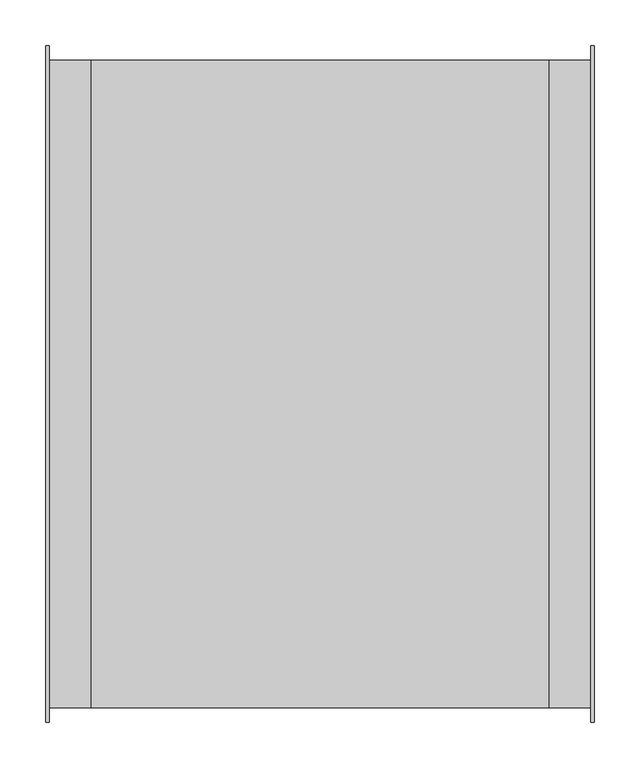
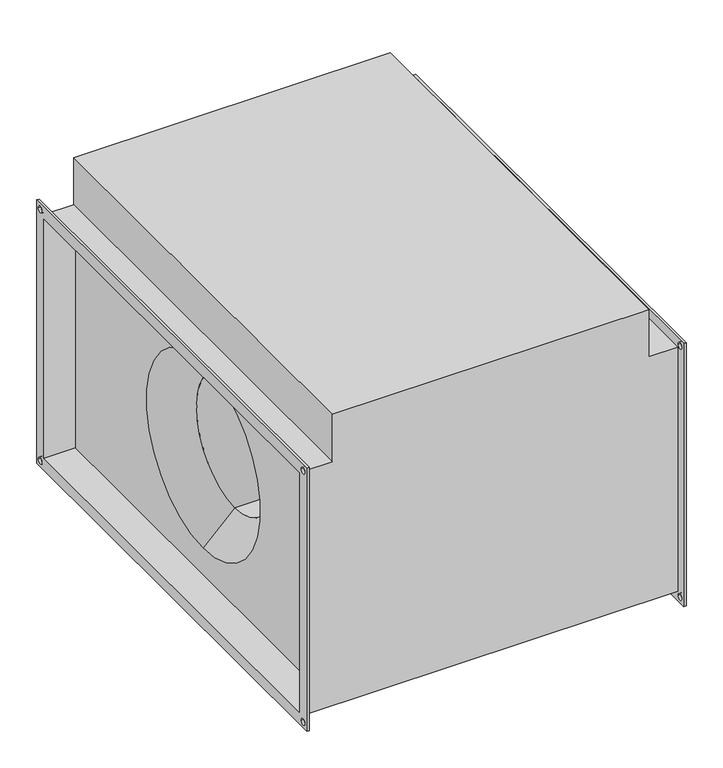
"""IFC4 building model written with IfcOpenShell, lengths in millimetres: proxy geometry."""

from ifc_helpers import new_model, si_unit, frame, origin, place, context, project, spatial, polyline, circle_curve, source, transform, mapped, element, save
from ifc_brep_helpers import plane_surface, revolved_surface, advanced_brep


def mechanical_equipment_ec7d1ba4(model_context):
    return source(origin(), model_context, "Body", "AdvancedBrep", [
        advanced_brep(
        [(-296.0, -354.0, 204.0), (-250.0, -354.0, 204.0), (-250.0, 354.0, 204.0), (-296.0, 354.0, 204.0), (250.0, 354.0, 283.0), (250.0, -354.0, 283.0), (250.0, -354.0, 204.0), (250.0, 354.0, 204.0), (250.0, 350.0, -200.0), (250.0, 350.0, 200.0), (250.0, -350.0, 200.0), (250.0, -350.0, -200.0), (250.0, 0.0, 155.0), (250.0, 0.0, -155.0), (-250.0, 350.0, 200.0), (-250.0, 350.0, -200.0), (-250.0, -350.0, -200.0), (-250.0, -350.0, 200.0), (-250.0, 0.0, -155.0), (-250.0, 0.0, 155.0), (-250.0, -354.0, 283.0), (-250.0, 354.0, 283.0), (-296.0, -354.0, -204.0), (296.0, -354.0, -204.0), (296.0, -354.0, 204.0), (-296.0, 354.0, -204.0), (296.0, 354.0, -204.0), (296.0, 354.0, 204.0), (200.0, 0.0, -105.0), (200.0, 0.0, 105.0), (-200.0, 0.0, 105.0), (-200.0, 0.0, -105.0), (-300.0, -370.0, 220.0), (-300.0, 370.0, 220.0), (-300.0, 370.0, -220.0), (-300.0, -370.0, -220.0), (-300.0, -350.0, 200.0), (-300.0, -350.0, -200.0), (-300.0, 350.0, -200.0), (-300.0, 350.0, 200.0), (-300.0, 355.0, 210.0), (-300.0, 365.0, 210.0), (-300.0, -365.0, 210.0), (-300.0, -355.0, 210.0), (-300.0, -365.0, -210.0), (-300.0, -355.0, -210.0), (-300.0, 355.0, -210.0), (-300.0, 365.0, -210.0), (-296.0, -370.0, 220.0), (-296.0, -370.0, -220.0), (-296.0, 370.0, -220.0), (-296.0, 370.0, 220.0), (-296.0, 365.0, 210.0), (-296.0, 355.0, 210.0), (-296.0, -355.0, 210.0), (-296.0, -365.0, 210.0), (-296.0, -355.0, -210.0), (-296.0, -365.0, -210.0), (-296.0, 365.0, -210.0), (-296.0, 355.0, -210.0), (296.0, 370.0, 220.0), (296.0, 370.0, -220.0), (296.0, -370.0, -220.0), (296.0, -370.0, 220.0), (296.0, 355.0, 210.0), (296.0, 365.0, 210.0), (296.0, -365.0, 210.0), (296.0, -355.0, 210.0), (296.0, -365.0, -210.0), (296.0, -355.0, -210.0), (296.0, 355.0, -210.0), (296.0, 365.0, -210.0), (300.0, 370.0, 220.0), (300.0, -370.0, 220.0), (300.0, -370.0, -220.0), (300.0, 370.0, -220.0), (300.0, 350.0, 200.0), (300.0, 350.0, -200.0), (300.0, -350.0, -200.0), (300.0, -350.0, 200.0), (300.0, 365.0, 210.0), (300.0, 355.0, 210.0), (300.0, -355.0, 210.0), (300.0, -365.0, 210.0), (300.0, -355.0, -210.0), (300.0, -365.0, -210.0), (300.0, 365.0, -210.0), (300.0, 355.0, -210.0)],
        [
            (0, 1),
            (1, 2),
            (2, 3),
            (3, 0),
            (4, 5),
            (5, 6),
            (6, 7),
            (7, 4),
            (8, 9),
            (9, 10),
            (10, 11),
            (11, 8),
            (12, 13, circle_curve(frame((250.0, 0.0, 0.0), z_axis=(-1.0, 0.0, 0.0), x_axis=(0.0, 0.0, 1.0)), 155.0)),
            (13, 12, circle_curve(frame((250.0, 0.0, 0.0), z_axis=(-1.0, 0.0, 0.0), x_axis=(0.0, 0.0, 1.0)), 155.0)),
            (14, 15),
            (15, 16),
            (16, 17),
            (17, 14),
            (18, 19, circle_curve(frame((-250.0, 0.0, 0.0), z_axis=(1.0, 0.0, 0.0), x_axis=(0.0, 0.0, 1.0)), 155.0)),
            (19, 18, circle_curve(frame((-250.0, 0.0, 0.0), z_axis=(1.0, 0.0, 0.0), x_axis=(0.0, 0.0, 1.0)), 155.0)),
            (20, 21),
            (21, 2),
            (1, 20),
            (5, 20),
            (0, 22),
            (22, 23),
            (23, 24),
            (24, 6),
            (22, 25),
            (25, 26),
            (26, 23),
            (21, 4),
            (7, 27),
            (27, 26),
            (25, 3),
            (24, 27),
            (28, 13),
            (12, 29),
            (29, 28, circle_curve(frame((200.0, 0.0, 0.0), z_axis=(-1.0, 0.0, 0.0), x_axis=(0.0, 0.0, 1.0)), 105.0)),
            (28, 29, circle_curve(frame((200.0, 0.0, 0.0), z_axis=(-1.0, 0.0, 0.0), x_axis=(0.0, 0.0, 1.0)), 105.0)),
            (29, 30),
            (30, 31, circle_curve(frame((-200.0, 0.0, 0.0), z_axis=(-1.0, 0.0, 0.0), x_axis=(0.0, 0.0, 1.0)), 105.0)),
            (31, 28),
            (31, 30, circle_curve(frame((-200.0, 0.0, 0.0), z_axis=(-1.0, 0.0, 0.0), x_axis=(0.0, 0.0, 1.0)), 105.0)),
            (30, 19),
            (18, 31),
            (32, 33),
            (33, 34),
            (34, 35),
            (35, 32),
            (36, 37),
            (37, 38),
            (38, 39),
            (39, 36),
            (40, 41, circle_curve(frame((-300.0, 360.0, 210.0), z_axis=(1.0, 0.0, 0.0), x_axis=(0.0, 1.0, 0.0)), 5.0)),
            (41, 40, circle_curve(frame((-300.0, 360.0, 210.0), z_axis=(1.0, 0.0, 0.0), x_axis=(0.0, 1.0, 0.0)), 5.0)),
            (42, 43, circle_curve(frame((-300.0, -360.0, 210.0), z_axis=(1.0, 0.0, 0.0), x_axis=(0.0, 1.0, 0.0)), 5.0)),
            (43, 42, circle_curve(frame((-300.0, -360.0, 210.0), z_axis=(1.0, 0.0, 0.0), x_axis=(0.0, 1.0, 0.0)), 5.0)),
            (44, 45, circle_curve(frame((-300.0, -360.0, -210.0), z_axis=(1.0, 0.0, 0.0), x_axis=(0.0, 1.0, 0.0)), 5.0)),
            (45, 44, circle_curve(frame((-300.0, -360.0, -210.0), z_axis=(1.0, 0.0, 0.0), x_axis=(0.0, 1.0, 0.0)), 5.0)),
            (46, 47, circle_curve(frame((-300.0, 360.0, -210.0), z_axis=(1.0, 0.0, 0.0), x_axis=(0.0, 1.0, 0.0)), 5.0)),
            (47, 46, circle_curve(frame((-300.0, 360.0, -210.0), z_axis=(1.0, 0.0, 0.0), x_axis=(0.0, 1.0, 0.0)), 5.0)),
            (48, 49),
            (49, 50),
            (50, 51),
            (51, 48),
            (52, 53, circle_curve(frame((-296.0, 360.0, 210.0), z_axis=(-1.0, 0.0, 0.0), x_axis=(0.0, 1.0, 0.0)), 5.0)),
            (53, 52, circle_curve(frame((-296.0, 360.0, 210.0), z_axis=(-1.0, 0.0, 0.0), x_axis=(0.0, 1.0, 0.0)), 5.0)),
            (54, 55, circle_curve(frame((-296.0, -360.0, 210.0), z_axis=(-1.0, 0.0, 0.0), x_axis=(0.0, 1.0, 0.0)), 5.0)),
            (55, 54, circle_curve(frame((-296.0, -360.0, 210.0), z_axis=(-1.0, 0.0, 0.0), x_axis=(0.0, 1.0, 0.0)), 5.0)),
            (56, 57, circle_curve(frame((-296.0, -360.0, -210.0), z_axis=(-1.0, 0.0, 0.0), x_axis=(0.0, 1.0, 0.0)), 5.0)),
            (57, 56, circle_curve(frame((-296.0, -360.0, -210.0), z_axis=(-1.0, 0.0, 0.0), x_axis=(0.0, 1.0, 0.0)), 5.0)),
            (58, 59, circle_curve(frame((-296.0, 360.0, -210.0), z_axis=(-1.0, 0.0, 0.0), x_axis=(0.0, 1.0, 0.0)), 5.0)),
            (59, 58, circle_curve(frame((-296.0, 360.0, -210.0), z_axis=(-1.0, 0.0, 0.0), x_axis=(0.0, 1.0, 0.0)), 5.0)),
            (35, 49),
            (48, 32),
            (34, 50),
            (33, 51),
            (60, 61),
            (61, 62),
            (62, 63),
            (63, 60),
            (64, 65, circle_curve(frame((296.0, 360.0, 210.0), z_axis=(1.0, 0.0, 0.0), x_axis=(0.0, 1.0, 0.0)), 5.0)),
            (65, 64, circle_curve(frame((296.0, 360.0, 210.0), z_axis=(1.0, 0.0, 0.0), x_axis=(0.0, 1.0, 0.0)), 5.0)),
            (66, 67, circle_curve(frame((296.0, -360.0, 210.0), z_axis=(1.0, 0.0, 0.0), x_axis=(0.0, 1.0, 0.0)), 5.0)),
            (67, 66, circle_curve(frame((296.0, -360.0, 210.0), z_axis=(1.0, 0.0, 0.0), x_axis=(0.0, 1.0, 0.0)), 5.0)),
            (68, 69, circle_curve(frame((296.0, -360.0, -210.0), z_axis=(1.0, 0.0, 0.0), x_axis=(0.0, 1.0, 0.0)), 5.0)),
            (69, 68, circle_curve(frame((296.0, -360.0, -210.0), z_axis=(1.0, 0.0, 0.0), x_axis=(0.0, 1.0, 0.0)), 5.0)),
            (70, 71, circle_curve(frame((296.0, 360.0, -210.0), z_axis=(1.0, 0.0, 0.0), x_axis=(0.0, 1.0, 0.0)), 5.0)),
            (71, 70, circle_curve(frame((296.0, 360.0, -210.0), z_axis=(1.0, 0.0, 0.0), x_axis=(0.0, 1.0, 0.0)), 5.0)),
            (72, 73),
            (73, 74),
            (74, 75),
            (75, 72),
            (76, 77),
            (77, 78),
            (78, 79),
            (79, 76),
            (80, 81, circle_curve(frame((300.0, 360.0, 210.0), z_axis=(-1.0, 0.0, 0.0), x_axis=(0.0, 1.0, 0.0)), 5.0)),
            (81, 80, circle_curve(frame((300.0, 360.0, 210.0), z_axis=(-1.0, 0.0, 0.0), x_axis=(0.0, 1.0, 0.0)), 5.0)),
            (82, 83, circle_curve(frame((300.0, -360.0, 210.0), z_axis=(-1.0, 0.0, 0.0), x_axis=(0.0, 1.0, 0.0)), 5.0)),
            (83, 82, circle_curve(frame((300.0, -360.0, 210.0), z_axis=(-1.0, 0.0, 0.0), x_axis=(0.0, 1.0, 0.0)), 5.0)),
            (84, 85, circle_curve(frame((300.0, -360.0, -210.0), z_axis=(-1.0, 0.0, 0.0), x_axis=(0.0, 1.0, 0.0)), 5.0)),
            (85, 84, circle_curve(frame((300.0, -360.0, -210.0), z_axis=(-1.0, 0.0, 0.0), x_axis=(0.0, 1.0, 0.0)), 5.0)),
            (86, 87, circle_curve(frame((300.0, 360.0, -210.0), z_axis=(-1.0, 0.0, 0.0), x_axis=(0.0, 1.0, 0.0)), 5.0)),
            (87, 86, circle_curve(frame((300.0, 360.0, -210.0), z_axis=(-1.0, 0.0, 0.0), x_axis=(0.0, 1.0, 0.0)), 5.0)),
            (63, 73),
            (72, 60),
            (62, 74),
            (61, 75),
            (39, 14),
            (17, 36),
            (38, 15),
            (37, 16),
            (76, 9),
            (8, 77),
            (11, 78),
            (10, 79),
            (40, 53),
            (52, 41),
            (64, 81),
            (80, 65),
            (42, 55),
            (54, 43),
            (66, 83),
            (82, 67),
            (44, 57),
            (56, 45),
            (68, 85),
            (84, 69),
            (46, 59),
            (58, 47),
            (70, 87),
            (86, 71),
        ],
        [
            plane_surface(frame((-250.0, 354.0, 204.0), z_axis=(0.0, 0.0, 1.0), x_axis=(-1.0, 0.0, 0.0))),
            plane_surface(frame((250.0, -354.0, 283.0), z_axis=(1.0, 0.0, 0.0), x_axis=(0.0, 0.0, -1.0))),
            plane_surface(frame((-250.0, -354.0, 283.0), z_axis=(-1.0, 0.0, 0.0), x_axis=(0.0, 0.0, 1.0))),
            plane_surface(frame((250.0, -354.0, 283.0), z_axis=(0.0, -1.0, 0.0), x_axis=(-1.0, 0.0, 0.0))),
            plane_surface(frame((250.0, -354.0, -204.0), z_axis=(0.0, 0.0, -1.0), x_axis=(-1.0, 0.0, 0.0))),
            plane_surface(frame((250.0, 354.0, -204.0), z_axis=(0.0, 1.0, 0.0), x_axis=(-1.0, 0.0, 0.0))),
            plane_surface(frame((250.0, 354.0, 283.0), z_axis=(0.0, 0.0, 1.0), x_axis=(-1.0, 0.0, 0.0))),
            plane_surface(frame((296.0, 354.0, 204.0), z_axis=(0.0, 0.0, 1.0), x_axis=(-1.0, 0.0, 0.0))),
            revolved_surface(polyline([(200.0, 0.0, 105.0), (250.0, 0.0, 155.0)]), (-687.0617897, 0.0, 0.0), (-1.0, 0.0, 0.0)),
            revolved_surface(polyline([(-200.0, 0.0, 105.0), (200.0, 0.0, 105.0)]), (-687.0617897, 0.0, 0.0), (-1.0, 0.0, 0.0)),
            revolved_surface(polyline([(-250.0, 0.0, 155.0), (-200.0, 0.0, 105.0)]), (-687.0617897, 0.0, 0.0), (-1.0, 0.0, 0.0)),
            plane_surface(frame((-300.0, -370.0, 220.0), z_axis=(-1.0, 0.0, 0.0), x_axis=(0.0, 0.0, 1.0))),
            plane_surface(frame((-296.0, -370.0, 220.0), z_axis=(1.0, 0.0, 0.0), x_axis=(0.0, 0.0, -1.0))),
            plane_surface(frame((-296.0, -370.0, 220.0), z_axis=(0.0, -1.0, 0.0), x_axis=(-1.0, 0.0, 0.0))),
            plane_surface(frame((-296.0, -370.0, -220.0), z_axis=(0.0, 0.0, -1.0), x_axis=(-1.0, 0.0, 0.0))),
            plane_surface(frame((-296.0, 370.0, -220.0), z_axis=(0.0, 1.0, 0.0), x_axis=(-1.0, 0.0, 0.0))),
            plane_surface(frame((-296.0, 370.0, 220.0), z_axis=(0.0, 0.0, 1.0), x_axis=(-1.0, 0.0, 0.0))),
            plane_surface(frame((296.0, 350.0, -200.0), z_axis=(-1.0, 0.0, 0.0), x_axis=(0.0, 0.0, 1.0))),
            plane_surface(frame((300.0, 350.0, -200.0), z_axis=(1.0, 0.0, 0.0), x_axis=(0.0, 0.0, -1.0))),
            plane_surface(frame((300.0, 370.0, 220.0), z_axis=(0.0, 0.0, 1.0), x_axis=(-1.0, 0.0, 0.0))),
            plane_surface(frame((300.0, -370.0, 220.0), z_axis=(0.0, -1.0, 0.0), x_axis=(-1.0, 0.0, 0.0))),
            plane_surface(frame((300.0, -370.0, -220.0), z_axis=(0.0, 0.0, -1.0), x_axis=(-1.0, 0.0, 0.0))),
            plane_surface(frame((300.0, 370.0, -220.0), z_axis=(0.0, 1.0, 0.0), x_axis=(-1.0, 0.0, 0.0))),
            plane_surface(frame((-296.0, -350.0, 200.0), z_axis=(0.0, 0.0, -1.0), x_axis=(-1.0, 0.0, 0.0))),
            plane_surface(frame((-296.0, 350.0, 200.0), z_axis=(0.0, -1.0, 0.0), x_axis=(-1.0, 0.0, 0.0))),
            plane_surface(frame((-296.0, 350.0, -200.0), z_axis=(0.0, 0.0, 1.0), x_axis=(-1.0, 0.0, 0.0))),
            plane_surface(frame((-296.0, -350.0, -200.0), z_axis=(0.0, 1.0, 0.0), x_axis=(-1.0, 0.0, 0.0))),
            plane_surface(frame((300.0, 350.0, 200.0), z_axis=(0.0, -1.0, 0.0), x_axis=(-1.0, 0.0, 0.0))),
            plane_surface(frame((300.0, 350.0, -200.0), z_axis=(0.0, 0.0, 1.0), x_axis=(-1.0, 0.0, 0.0))),
            plane_surface(frame((300.0, -350.0, -200.0), z_axis=(0.0, 1.0, 0.0), x_axis=(-1.0, 0.0, 0.0))),
            plane_surface(frame((300.0, -350.0, 200.0), z_axis=(0.0, 0.0, -1.0), x_axis=(-1.0, 0.0, 0.0))),
            revolved_surface(polyline([(-296.0, 365.0, 210.0), (-300.0, 365.0, 210.0)]), (-300.0, 360.0, 210.0), (1.0, 0.0, 0.0)),
            revolved_surface(polyline([(300.0, 365.0, 210.0), (296.0, 365.0, 210.0)]), (-300.0, 360.0, 210.0), (1.0, 0.0, 0.0)),
            revolved_surface(polyline([(-296.0, -355.0, 210.0), (-300.0, -355.0, 210.0)]), (0.0, -360.0, 210.0), (1.0, 0.0, 0.0)),
            revolved_surface(polyline([(300.0, -355.0, 210.0), (296.0, -355.0, 210.0)]), (0.0, -360.0, 210.0), (1.0, 0.0, 0.0)),
            revolved_surface(polyline([(-296.0, -355.0, -210.0), (-300.0, -355.0, -210.0)]), (0.0, -360.0, -210.0), (1.0, 0.0, 0.0)),
            revolved_surface(polyline([(300.0, -355.0, -210.0), (296.0, -355.0, -210.0)]), (0.0, -360.0, -210.0), (1.0, 0.0, 0.0)),
            revolved_surface(polyline([(-296.0, 365.0, -210.0), (-300.0, 365.0, -210.0)]), (0.0, 360.0, -210.0), (1.0, 0.0, 0.0)),
            revolved_surface(polyline([(300.0, 365.0, -210.0), (296.0, 365.0, -210.0)]), (0.0, 360.0, -210.0), (1.0, 0.0, 0.0)),
        ],
        [
            (0, [[1, 2, 3, 4]]),
            (1, [[5, 6, 7, 8]]),
            (1, [[9, 10, 11, 12], [13, 14]]),
            (2, [[15, 16, 17, 18], [19, 20]]),
            (2, [[21, 22, -2, 23]]),
            (3, [[24, -23, -1, 25, 26, 27, 28, -6]]),
            (4, [[-26, 29, 30, 31]]),
            (5, [[32, -8, 33, 34, -30, 35, -3, -22]]),
            (6, [[-5, -32, -21, -24]]),
            (7, [[-28, 36, -33, -7]]),
            (8, [[37, -13, 38, 39]]),
            (8, [[-37, 40, -38, -14]]),
            (9, [[-39, 41, 42, 43]]),
            (9, [[-40, -43, 44, -41]]),
            (10, [[-42, 45, -19, 46]]),
            (10, [[-44, -46, -20, -45]]),
            (11, [[47, 48, 49, 50], [51, 52, 53, 54], [55, 56], [57, 58], [59, 60], [61, 62]]),
            (12, [[63, 64, 65, 66], [-25, -4, -35, -29], [67, 68], [69, 70], [71, 72], [73, 74]]),
            (13, [[-50, 75, -63, 76]]),
            (14, [[-49, 77, -64, -75]]),
            (15, [[-48, 78, -65, -77]]),
            (16, [[-47, -76, -66, -78]]),
            (17, [[79, 80, 81, 82], [-27, -31, -34, -36], [83, 84], [85, 86], [87, 88], [89, 90]]),
            (18, [[91, 92, 93, 94], [95, 96, 97, 98], [99, 100], [101, 102], [103, 104], [105, 106]]),
            (19, [[-82, 107, -91, 108]]),
            (20, [[-81, 109, -92, -107]]),
            (21, [[-80, 110, -93, -109]]),
            (22, [[-79, -108, -94, -110]]),
            (23, [[-54, 111, -18, 112]]),
            (24, [[-53, 113, -15, -111]]),
            (25, [[-52, 114, -16, -113]]),
            (26, [[-51, -112, -17, -114]]),
            (27, [[-95, 115, -9, 116]]),
            (28, [[-96, -116, -12, 117]]),
            (29, [[-97, -117, -11, 118]]),
            (30, [[-115, -98, -118, -10]]),
            (31, [[119, -67, 120, -55]]),
            (32, [[121, -99, 122, -83]]),
            (31, [[-119, -56, -120, -68]]),
            (32, [[-121, -84, -122, -100]]),
            (33, [[123, -69, 124, -57]]),
            (34, [[125, -101, 126, -85]]),
            (33, [[-123, -58, -124, -70]]),
            (34, [[-125, -86, -126, -102]]),
            (35, [[127, -71, 128, -59]]),
            (36, [[129, -103, 130, -87]]),
            (35, [[-127, -60, -128, -72]]),
            (36, [[-129, -88, -130, -104]]),
            (37, [[131, -73, 132, -61]]),
            (38, [[133, -105, 134, -89]]),
            (37, [[-131, -62, -132, -74]]),
            (38, [[-133, -90, -134, -106]]),
        ],
    ),
    ])


if __name__ == "__main__":
    model = new_model("IFC4")
    model_context = context("Model", 3, world=origin())
    ifc_project = project(units=[si_unit("LENGTHUNIT", "METRE", prefix="MILLI")], contexts=[model_context])
    site = spatial("IfcSite", under=ifc_project)
    building = spatial("IfcBuilding", under=site)
    placement = place(None, origin())
    mechanical_equipment_shape = mechanical_equipment_ec7d1ba4(model_context)
    element("IfcBuildingElementProxy", 1, Name="Mechanical Equipment", at=placement, inside=building, context=model_context, shape_type="MappedRepresentation", body=[
        mapped(mechanical_equipment_shape, transform((0.0, 0.0, 0.0), x_axis=(1.0, 0.0, 0.0), y_axis=(0.0, 1.0, 0.0), z_axis=(0.0, 0.0, 1.0))),
    ])
    save(model, "model.ifc")
